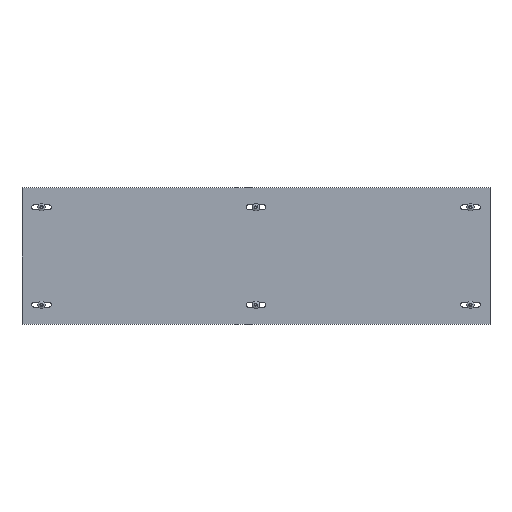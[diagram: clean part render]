
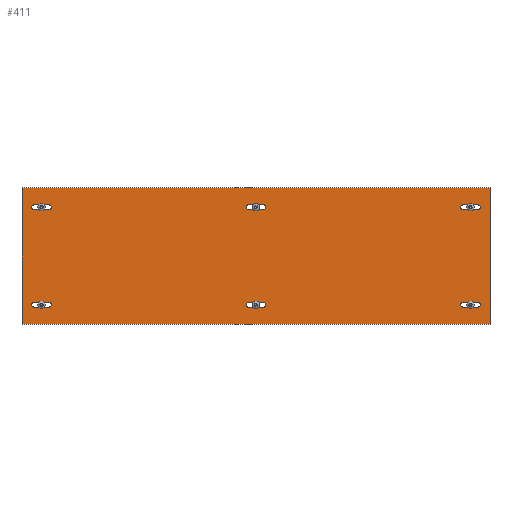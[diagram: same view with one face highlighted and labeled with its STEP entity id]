
A CAD part, top view. The second image highlights one B-rep face of the part: STEP entity #411.
In plain terms, the highlighted planar face has unit normal (0, 0, 1).
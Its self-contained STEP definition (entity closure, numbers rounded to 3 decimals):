
#63 = EDGE_CURVE('',#64,#66,#68,.T.);
#64 = VERTEX_POINT('',#65);
#65 = CARTESIAN_POINT('',(-300.,87.5,0.));
#66 = VERTEX_POINT('',#67);
#67 = CARTESIAN_POINT('',(-300.,-87.5,0.));
#68 = LINE('',#69,#70);
#69 = CARTESIAN_POINT('',(-300.,-87.5,0.));
#70 = VECTOR('',#71,1.);
#71 = DIRECTION('',(-0.,-1.,-0.));
#103 = EDGE_CURVE('',#104,#64,#106,.T.);
#104 = VERTEX_POINT('',#105);
#105 = CARTESIAN_POINT('',(300.,87.5,0.));
#106 = LINE('',#107,#108);
#107 = CARTESIAN_POINT('',(300.,87.5,0.));
#108 = VECTOR('',#109,1.);
#109 = DIRECTION('',(-1.,0.,0.));
#134 = EDGE_CURVE('',#135,#104,#137,.T.);
#135 = VERTEX_POINT('',#136);
#136 = CARTESIAN_POINT('',(300.,-87.5,0.));
#137 = LINE('',#138,#139);
#138 = CARTESIAN_POINT('',(300.,-87.5,0.));
#139 = VECTOR('',#140,1.);
#140 = DIRECTION('',(0.,1.,0.));
#165 = EDGE_CURVE('',#66,#135,#166,.T.);
#166 = LINE('',#167,#168);
#167 = CARTESIAN_POINT('',(300.,-87.5,0.));
#168 = VECTOR('',#169,1.);
#169 = DIRECTION('',(1.,0.,-0.));
#411 = ADVANCED_FACE('',(#412,#448,#484,#520,#556,#592,#628),#634,.T.);
#412 = FACE_BOUND('',#413,.T.);
#413 = EDGE_LOOP('',(#414,#425,#433,#442));
#414 = ORIENTED_EDGE('',*,*,#415,.F.);
#415 = EDGE_CURVE('',#416,#418,#420,.T.);
#416 = VERTEX_POINT('',#417);
#417 = CARTESIAN_POINT('',(-9.25,65.75,0.));
#418 = VERTEX_POINT('',#419);
#419 = CARTESIAN_POINT('',(-9.25,59.25,0.));
#420 = CIRCLE('',#421,3.25);
#421 = AXIS2_PLACEMENT_3D('',#422,#423,#424);
#422 = CARTESIAN_POINT('',(-9.25,62.5,0.));
#423 = DIRECTION('',(0.,0.,1.));
#424 = DIRECTION('',(1.,0.,-0.));
#425 = ORIENTED_EDGE('',*,*,#426,.F.);
#426 = EDGE_CURVE('',#427,#416,#429,.T.);
#427 = VERTEX_POINT('',#428);
#428 = CARTESIAN_POINT('',(9.25,65.75,0.));
#429 = LINE('',#430,#431);
#430 = CARTESIAN_POINT('',(-9.25,65.75,0.));
#431 = VECTOR('',#432,1.);
#432 = DIRECTION('',(-1.,-0.,-0.));
#433 = ORIENTED_EDGE('',*,*,#434,.F.);
#434 = EDGE_CURVE('',#435,#427,#437,.T.);
#435 = VERTEX_POINT('',#436);
#436 = CARTESIAN_POINT('',(9.25,59.25,0.));
#437 = CIRCLE('',#438,3.25);
#438 = AXIS2_PLACEMENT_3D('',#439,#440,#441);
#439 = CARTESIAN_POINT('',(9.25,62.5,0.));
#440 = DIRECTION('',(0.,0.,1.));
#441 = DIRECTION('',(1.,0.,-0.));
#442 = ORIENTED_EDGE('',*,*,#443,.F.);
#443 = EDGE_CURVE('',#418,#435,#444,.T.);
#444 = LINE('',#445,#446);
#445 = CARTESIAN_POINT('',(-9.25,59.25,0.));
#446 = VECTOR('',#447,1.);
#447 = DIRECTION('',(1.,0.,0.));
#448 = FACE_BOUND('',#449,.T.);
#449 = EDGE_LOOP('',(#450,#461,#469,#478));
#450 = ORIENTED_EDGE('',*,*,#451,.F.);
#451 = EDGE_CURVE('',#452,#454,#456,.T.);
#452 = VERTEX_POINT('',#453);
#453 = CARTESIAN_POINT('',(-9.25,-59.25,0.));
#454 = VERTEX_POINT('',#455);
#455 = CARTESIAN_POINT('',(-9.25,-65.75,0.));
#456 = CIRCLE('',#457,3.25);
#457 = AXIS2_PLACEMENT_3D('',#458,#459,#460);
#458 = CARTESIAN_POINT('',(-9.25,-62.5,0.));
#459 = DIRECTION('',(0.,0.,1.));
#460 = DIRECTION('',(-1.,0.,0.));
#461 = ORIENTED_EDGE('',*,*,#462,.F.);
#462 = EDGE_CURVE('',#463,#452,#465,.T.);
#463 = VERTEX_POINT('',#464);
#464 = CARTESIAN_POINT('',(9.25,-59.25,0.));
#465 = LINE('',#466,#467);
#466 = CARTESIAN_POINT('',(-9.25,-59.25,0.));
#467 = VECTOR('',#468,1.);
#468 = DIRECTION('',(-1.,-0.,-0.));
#469 = ORIENTED_EDGE('',*,*,#470,.F.);
#470 = EDGE_CURVE('',#471,#463,#473,.T.);
#471 = VERTEX_POINT('',#472);
#472 = CARTESIAN_POINT('',(9.25,-65.75,0.));
#473 = CIRCLE('',#474,3.25);
#474 = AXIS2_PLACEMENT_3D('',#475,#476,#477);
#475 = CARTESIAN_POINT('',(9.25,-62.5,0.));
#476 = DIRECTION('',(0.,0.,1.));
#477 = DIRECTION('',(-1.,0.,0.));
#478 = ORIENTED_EDGE('',*,*,#479,.F.);
#479 = EDGE_CURVE('',#454,#471,#480,.T.);
#480 = LINE('',#481,#482);
#481 = CARTESIAN_POINT('',(-9.25,-65.75,0.));
#482 = VECTOR('',#483,1.);
#483 = DIRECTION('',(1.,0.,0.));
#484 = FACE_BOUND('',#485,.T.);
#485 = EDGE_LOOP('',(#486,#497,#505,#514));
#486 = ORIENTED_EDGE('',*,*,#487,.F.);
#487 = EDGE_CURVE('',#488,#490,#492,.T.);
#488 = VERTEX_POINT('',#489);
#489 = CARTESIAN_POINT('',(-265.75,-65.75,0.));
#490 = VERTEX_POINT('',#491);
#491 = CARTESIAN_POINT('',(-265.75,-59.25,0.));
#492 = CIRCLE('',#493,3.25);
#493 = AXIS2_PLACEMENT_3D('',#494,#495,#496);
#494 = CARTESIAN_POINT('',(-265.75,-62.5,0.));
#495 = DIRECTION('',(0.,0.,1.));
#496 = DIRECTION('',(1.,0.,-0.));
#497 = ORIENTED_EDGE('',*,*,#498,.F.);
#498 = EDGE_CURVE('',#499,#488,#501,.T.);
#499 = VERTEX_POINT('',#500);
#500 = CARTESIAN_POINT('',(-284.25,-65.75,0.));
#501 = LINE('',#502,#503);
#502 = CARTESIAN_POINT('',(-265.75,-65.75,0.));
#503 = VECTOR('',#504,1.);
#504 = DIRECTION('',(1.,-0.,-0.));
#505 = ORIENTED_EDGE('',*,*,#506,.F.);
#506 = EDGE_CURVE('',#507,#499,#509,.T.);
#507 = VERTEX_POINT('',#508);
#508 = CARTESIAN_POINT('',(-284.25,-59.25,0.));
#509 = CIRCLE('',#510,3.25);
#510 = AXIS2_PLACEMENT_3D('',#511,#512,#513);
#511 = CARTESIAN_POINT('',(-284.25,-62.5,0.));
#512 = DIRECTION('',(0.,0.,1.));
#513 = DIRECTION('',(1.,0.,-0.));
#514 = ORIENTED_EDGE('',*,*,#515,.F.);
#515 = EDGE_CURVE('',#490,#507,#516,.T.);
#516 = LINE('',#517,#518);
#517 = CARTESIAN_POINT('',(-265.75,-59.25,0.));
#518 = VECTOR('',#519,1.);
#519 = DIRECTION('',(-1.,0.,0.));
#520 = FACE_BOUND('',#521,.T.);
#521 = EDGE_LOOP('',(#522,#533,#541,#550));
#522 = ORIENTED_EDGE('',*,*,#523,.F.);
#523 = EDGE_CURVE('',#524,#526,#528,.T.);
#524 = VERTEX_POINT('',#525);
#525 = CARTESIAN_POINT('',(-265.75,59.25,0.));
#526 = VERTEX_POINT('',#527);
#527 = CARTESIAN_POINT('',(-265.75,65.75,0.));
#528 = CIRCLE('',#529,3.25);
#529 = AXIS2_PLACEMENT_3D('',#530,#531,#532);
#530 = CARTESIAN_POINT('',(-265.75,62.5,0.));
#531 = DIRECTION('',(0.,0.,1.));
#532 = DIRECTION('',(-1.,0.,0.));
#533 = ORIENTED_EDGE('',*,*,#534,.F.);
#534 = EDGE_CURVE('',#535,#524,#537,.T.);
#535 = VERTEX_POINT('',#536);
#536 = CARTESIAN_POINT('',(-284.25,59.25,0.));
#537 = LINE('',#538,#539);
#538 = CARTESIAN_POINT('',(-265.75,59.25,0.));
#539 = VECTOR('',#540,1.);
#540 = DIRECTION('',(1.,-0.,-0.));
#541 = ORIENTED_EDGE('',*,*,#542,.F.);
#542 = EDGE_CURVE('',#543,#535,#545,.T.);
#543 = VERTEX_POINT('',#544);
#544 = CARTESIAN_POINT('',(-284.25,65.75,0.));
#545 = CIRCLE('',#546,3.25);
#546 = AXIS2_PLACEMENT_3D('',#547,#548,#549);
#547 = CARTESIAN_POINT('',(-284.25,62.5,0.));
#548 = DIRECTION('',(0.,0.,1.));
#549 = DIRECTION('',(-1.,0.,0.));
#550 = ORIENTED_EDGE('',*,*,#551,.F.);
#551 = EDGE_CURVE('',#526,#543,#552,.T.);
#552 = LINE('',#553,#554);
#553 = CARTESIAN_POINT('',(-265.75,65.75,0.));
#554 = VECTOR('',#555,1.);
#555 = DIRECTION('',(-1.,0.,0.));
#556 = FACE_BOUND('',#557,.T.);
#557 = EDGE_LOOP('',(#558,#569,#577,#586));
#558 = ORIENTED_EDGE('',*,*,#559,.F.);
#559 = EDGE_CURVE('',#560,#562,#564,.T.);
#560 = VERTEX_POINT('',#561);
#561 = CARTESIAN_POINT('',(265.75,65.75,0.));
#562 = VERTEX_POINT('',#563);
#563 = CARTESIAN_POINT('',(265.75,59.25,0.));
#564 = CIRCLE('',#565,3.25);
#565 = AXIS2_PLACEMENT_3D('',#566,#567,#568);
#566 = CARTESIAN_POINT('',(265.75,62.5,0.));
#567 = DIRECTION('',(0.,0.,1.));
#568 = DIRECTION('',(1.,0.,-0.));
#569 = ORIENTED_EDGE('',*,*,#570,.F.);
#570 = EDGE_CURVE('',#571,#560,#573,.T.);
#571 = VERTEX_POINT('',#572);
#572 = CARTESIAN_POINT('',(284.25,65.75,0.));
#573 = LINE('',#574,#575);
#574 = CARTESIAN_POINT('',(265.75,65.75,0.));
#575 = VECTOR('',#576,1.);
#576 = DIRECTION('',(-1.,-0.,-0.));
#577 = ORIENTED_EDGE('',*,*,#578,.F.);
#578 = EDGE_CURVE('',#579,#571,#581,.T.);
#579 = VERTEX_POINT('',#580);
#580 = CARTESIAN_POINT('',(284.25,59.25,0.));
#581 = CIRCLE('',#582,3.25);
#582 = AXIS2_PLACEMENT_3D('',#583,#584,#585);
#583 = CARTESIAN_POINT('',(284.25,62.5,0.));
#584 = DIRECTION('',(0.,0.,1.));
#585 = DIRECTION('',(1.,0.,-0.));
#586 = ORIENTED_EDGE('',*,*,#587,.F.);
#587 = EDGE_CURVE('',#562,#579,#588,.T.);
#588 = LINE('',#589,#590);
#589 = CARTESIAN_POINT('',(265.75,59.25,0.));
#590 = VECTOR('',#591,1.);
#591 = DIRECTION('',(1.,0.,0.));
#592 = FACE_BOUND('',#593,.T.);
#593 = EDGE_LOOP('',(#594,#605,#613,#622));
#594 = ORIENTED_EDGE('',*,*,#595,.F.);
#595 = EDGE_CURVE('',#596,#598,#600,.T.);
#596 = VERTEX_POINT('',#597);
#597 = CARTESIAN_POINT('',(265.75,-59.25,0.));
#598 = VERTEX_POINT('',#599);
#599 = CARTESIAN_POINT('',(265.75,-65.75,0.));
#600 = CIRCLE('',#601,3.25);
#601 = AXIS2_PLACEMENT_3D('',#602,#603,#604);
#602 = CARTESIAN_POINT('',(265.75,-62.5,0.));
#603 = DIRECTION('',(0.,0.,1.));
#604 = DIRECTION('',(-1.,0.,0.));
#605 = ORIENTED_EDGE('',*,*,#606,.F.);
#606 = EDGE_CURVE('',#607,#596,#609,.T.);
#607 = VERTEX_POINT('',#608);
#608 = CARTESIAN_POINT('',(284.25,-59.25,0.));
#609 = LINE('',#610,#611);
#610 = CARTESIAN_POINT('',(265.75,-59.25,0.));
#611 = VECTOR('',#612,1.);
#612 = DIRECTION('',(-1.,-0.,-0.));
#613 = ORIENTED_EDGE('',*,*,#614,.F.);
#614 = EDGE_CURVE('',#615,#607,#617,.T.);
#615 = VERTEX_POINT('',#616);
#616 = CARTESIAN_POINT('',(284.25,-65.75,0.));
#617 = CIRCLE('',#618,3.25);
#618 = AXIS2_PLACEMENT_3D('',#619,#620,#621);
#619 = CARTESIAN_POINT('',(284.25,-62.5,0.));
#620 = DIRECTION('',(0.,0.,1.));
#621 = DIRECTION('',(-1.,0.,0.));
#622 = ORIENTED_EDGE('',*,*,#623,.F.);
#623 = EDGE_CURVE('',#598,#615,#624,.T.);
#624 = LINE('',#625,#626);
#625 = CARTESIAN_POINT('',(265.75,-65.75,0.));
#626 = VECTOR('',#627,1.);
#627 = DIRECTION('',(1.,0.,0.));
#628 = FACE_BOUND('',#629,.T.);
#629 = EDGE_LOOP('',(#630,#631,#632,#633));
#630 = ORIENTED_EDGE('',*,*,#63,.T.);
#631 = ORIENTED_EDGE('',*,*,#165,.T.);
#632 = ORIENTED_EDGE('',*,*,#134,.T.);
#633 = ORIENTED_EDGE('',*,*,#103,.T.);
#634 = PLANE('',#635);
#635 = AXIS2_PLACEMENT_3D('',#636,#637,#638);
#636 = CARTESIAN_POINT('',(0.,0.,0.));
#637 = DIRECTION('',(0.,-0.,1.));
#638 = DIRECTION('',(1.,0.,0.));
